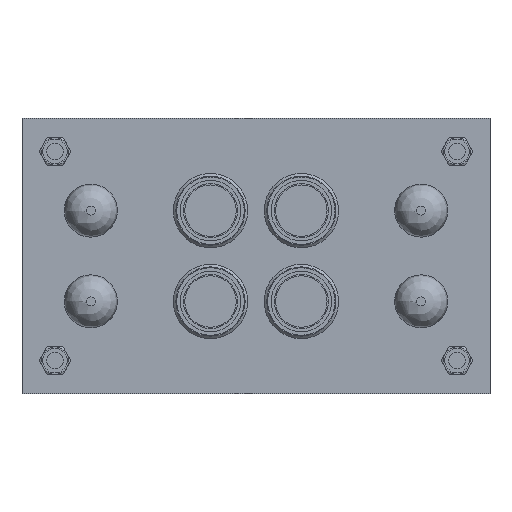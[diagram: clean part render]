
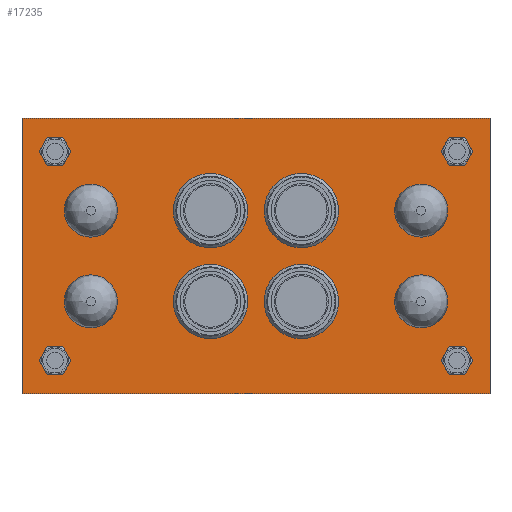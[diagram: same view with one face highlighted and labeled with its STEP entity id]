
A CAD part, front view. The second image highlights one B-rep face of the part: STEP entity #17235.
In plain terms, the highlighted planar face has unit normal (0, -1, 0).
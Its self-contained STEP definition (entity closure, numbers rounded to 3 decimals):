
#1425=LINE('',#28112,#2369);
#1426=LINE('',#28114,#2370);
#1427=LINE('',#28116,#2371);
#1428=LINE('',#28117,#2372);
#2369=VECTOR('',#20356,10.);
#2370=VECTOR('',#20357,10.);
#2371=VECTOR('',#20358,10.);
#2372=VECTOR('',#20359,10.);
#3483=FACE_OUTER_BOUND('',#4562,.T.);
#4562=EDGE_LOOP('',(#10757,#10758,#10759,#10760));
#6524=VERTEX_POINT('',#28110);
#6525=VERTEX_POINT('',#28111);
#6526=VERTEX_POINT('',#28113);
#6527=VERTEX_POINT('',#28115);
#8167=EDGE_CURVE('',#6524,#6525,#1425,.T.);
#8168=EDGE_CURVE('',#6525,#6526,#1426,.T.);
#8169=EDGE_CURVE('',#6526,#6527,#1427,.T.);
#8170=EDGE_CURVE('',#6527,#6524,#1428,.T.);
#10757=ORIENTED_EDGE('',*,*,#8167,.T.);
#10758=ORIENTED_EDGE('',*,*,#8168,.T.);
#10759=ORIENTED_EDGE('',*,*,#8169,.T.);
#10760=ORIENTED_EDGE('',*,*,#8170,.T.);
#15644=PLANE('',#18414);
#17235=ADVANCED_FACE('',(#3483),#15644,.T.);
#18414=AXIS2_PLACEMENT_3D('',#28109,#20354,#20355);
#20354=DIRECTION('center_axis',(0.,-1.,0.));
#20355=DIRECTION('ref_axis',(0.,0.,
-1.));
#20356=DIRECTION('',(-1.,0.,0.));
#20357=DIRECTION('',(0.,0.,-1.));
#20358=DIRECTION('',(1.,0.,0.));
#20359=DIRECTION('',(0.,0.,1.));
#28109=CARTESIAN_POINT('Origin',(0.,-62.39,
-77.911));
#28110=CARTESIAN_POINT('',(85.,-62.39,-27.911));
#28111=CARTESIAN_POINT('',(-85.,-62.39,-27.911));
#28112=CARTESIAN_POINT('',(85.,-62.39,-27.911));
#28113=CARTESIAN_POINT('',(-85.,-62.39,-127.911));
#28114=CARTESIAN_POINT('',(-85.,-62.39,-27.911));
#28115=CARTESIAN_POINT('',(85.,-62.39,-127.911));
#28116=CARTESIAN_POINT('',(-85.,-62.39,-127.911));
#28117=CARTESIAN_POINT('',(85.,-62.39,-127.911));
